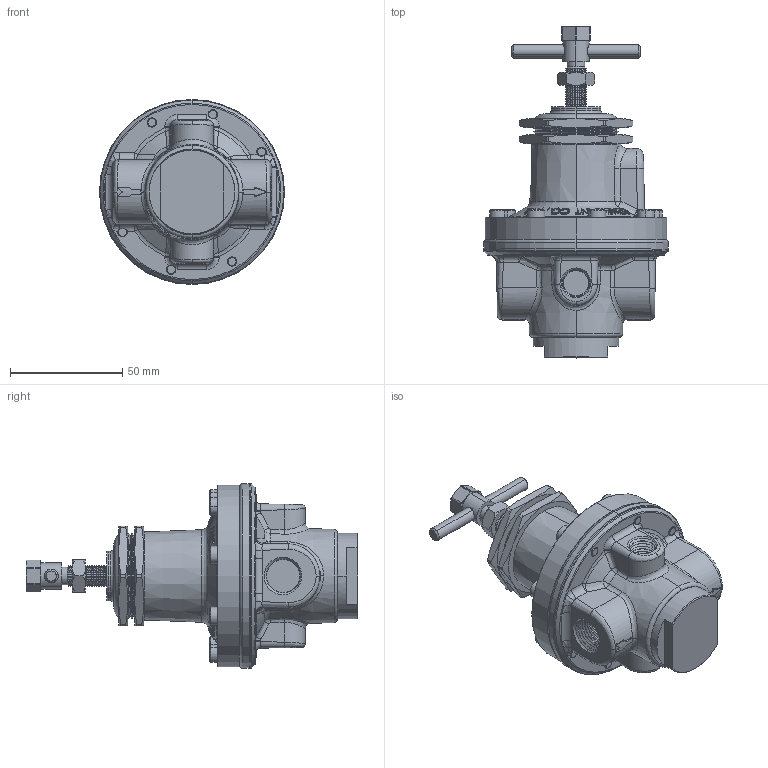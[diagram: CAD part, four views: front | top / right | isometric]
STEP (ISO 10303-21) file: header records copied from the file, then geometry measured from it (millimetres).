
FILE_DESCRIPTION (( 'STEP AP203' ), '1' );
FILE_NAME ('4GDR-375B-P.STEP', '2013-03-14T14:49:17', ( '' ), ( '' ), 'SwSTEP 2.0', 'SolidWorks 2011', '' );
FILE_SCHEMA (( 'CONFIG_CONTROL_DESIGN' ));
Length unit declared in the file: inch
Products named in the file (2): 4GDR-375B-P; Part14^4GDR-375B-P_CM
Assembly tree (1 placements, depth 2):
  4GDR-375B-P
    Part14^4GDR-375B-P_CM
Bounding box: 82.3 x 147.64 x 82.3 mm (x, y, z)
Volume: 248917.8 mm3; surface area: 38684.3 mm2
Topology: 1 solids, 6 shells, 1270 faces, 2923 edges, 1703 vertices
Faces by surface type: cone 443, plane 356, bspline 222, cylinder 203, torus 33, sphere 13
Entity records: 45232 total; most frequent: CARTESIAN_POINT 18679, ORIENTED_EDGE 5804, DIRECTION 4968, EDGE_CURVE 2902, AXIS2_PLACEMENT_3D 1952, VERTEX_POINT 1703, EDGE_LOOP 1339, FACE_OUTER_BOUND 1270
